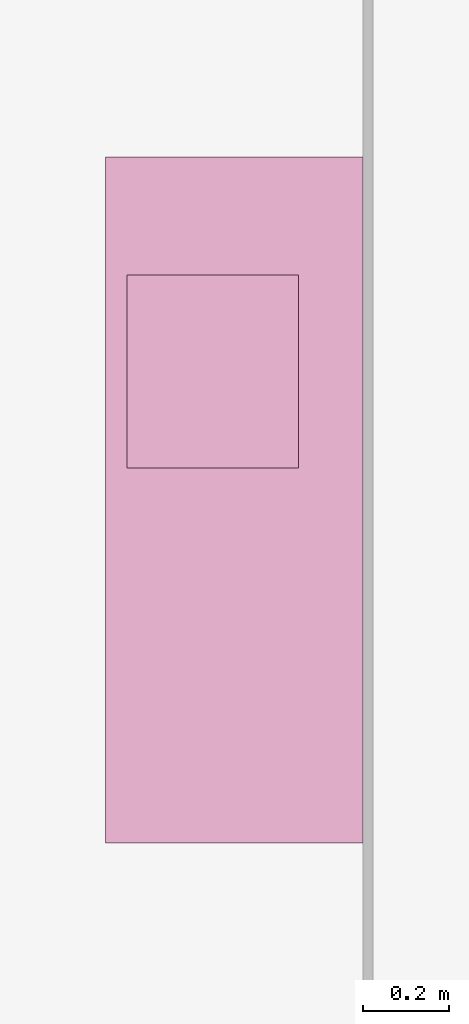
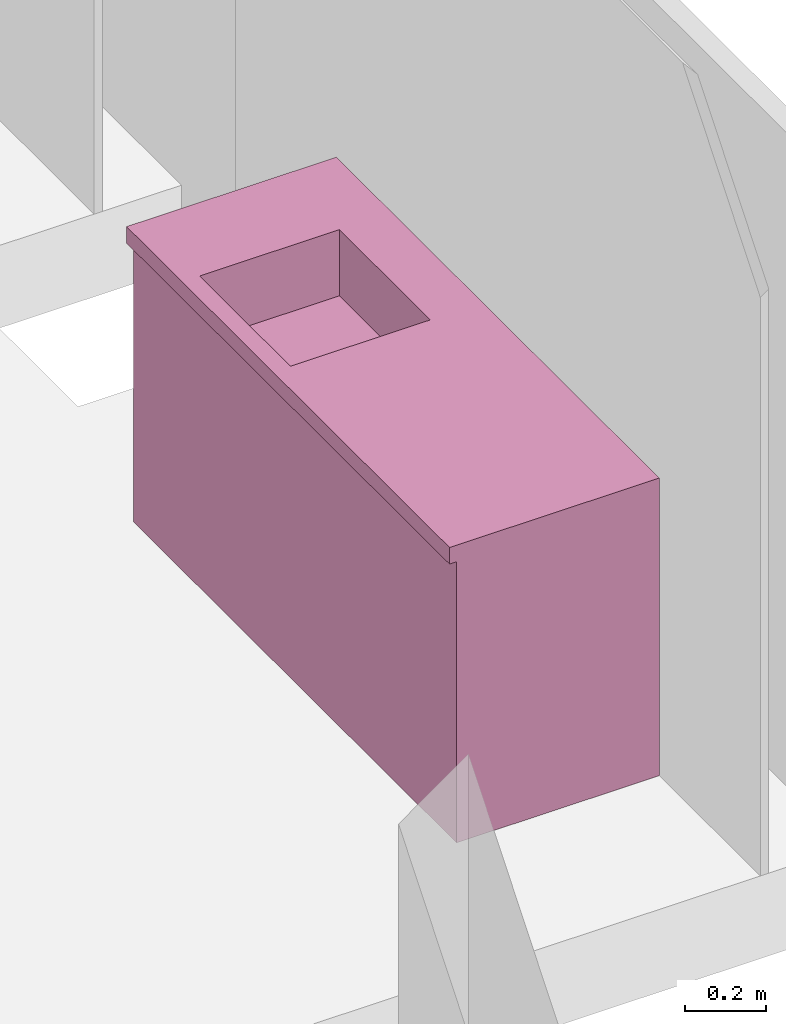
# One storey, part 2 of 2: 1 furniture element.
"""IFC4 building model written with IfcOpenShell, lengths in millimetres."""

from ifc_helpers import new_model, si_unit, frame, origin_with_axes, place, context, subcontext, project, spatial, triangles, material, type_object, element, save


model = new_model("IFC4")

# Units and contexts
model_context = context("Model", 3, world=origin_with_axes())
body_context = subcontext(model_context, "Body", "Model", "MODEL_VIEW")
ifc_project = project(units=[si_unit("LENGTHUNIT", "METRE", prefix="MILLI"), si_unit("AREAUNIT", "SQUARE_METRE"), si_unit("VOLUMEUNIT", "CUBIC_METRE")], contexts=[model_context])

# Sites, building, storey, space
site_1_placement = place(None, origin_with_axes())
site_1 = spatial("IfcSite", under=ifc_project, at=site_1_placement, Name="environment - site", CompositionType="COMPLEX")
site_2_placement = place(site_1_placement, frame((5800.000000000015, 5800.000000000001, -1300.0000000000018), z_axis=(0.0, 0.0, 1.0), x_axis=(1.0, 0.0, 0.0)))
site_2 = spatial("IfcSite", under=site_1, at=site_2_placement, Name="house - site", CompositionType="PARTIAL")
building_placement = place(site_2_placement, frame((-2799.999999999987, -2799.9999999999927, 1300.0), z_axis=(0.0, 0.0, 1.0), x_axis=(1.0, 0.0, 0.0)))
building = spatial("IfcBuilding", under=site_2, at=building_placement, Name="Single-family house", CompositionType="ELEMENT")
storey_placement = place(building_placement, origin_with_axes())
storey = spatial("IfcBuildingStorey", under=building, at=storey_placement, Name="00 groundfloor", CompositionType="ELEMENT", Elevation=-1.8047785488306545e-12)
space_placement = place(None, frame((3200.000000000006, 4999.99999999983, 1.9491608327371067e-11), z_axis=(0.0, 0.0, 1.0), x_axis=(1.0, 0.0, 0.0)))
space = spatial("IfcSpace", under=storey, at=space_placement, Name="living room", CompositionType="ELEMENT")

# Furniture
ifc_material = material(Name="wood_mdf_plate")
furniture_type = type_object("IfcFurnitureType", Name="house - kitchen", AssemblyPlace="NOTDEFINED", PredefinedType="USERDEFINED")
furniture_placement = place(space_placement, frame((4950.000000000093, 2100.000000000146, 2.8695978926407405e-11), z_axis=(8.38164711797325e-31, 5.661703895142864e-16, 1.0), x_axis=(-1.5543122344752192e-15, -1.0, 5.661703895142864e-16)))
element("IfcFurniture", 1, at=furniture_placement, inside=space, type_object=furniture_type, material=ifc_material, Name="kitchen", ObjectType="kitchen", context=body_context, shape_type="Tessellation", body=[
    triangles([(724.9999999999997, -150.00000000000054, 900.0000000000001), (275.00000000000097, -150.00000000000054, 700.0000000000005), (724.9999999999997, -150.00000000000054, 700.0000000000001), (275.00000000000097, -150.00000000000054, 900.0000000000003), (0.0, 0.0, 900.0), (1600.0000000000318, 3.7902481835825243e-44, 1.59274862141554e-13), (0.0, 0.0, 0.0), (1600.0000000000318, 3.7902481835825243e-44, 899.9999999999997), (724.9999999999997, -549.9999999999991, 700.0), (275.00000000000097, -150.00000000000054, 700.0000000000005), (275.00000000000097, -549.9999999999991, 700.0000000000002), (724.9999999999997, -150.00000000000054, 700.0000000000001), (0.0, 0.0, 900.0), (-1.4213430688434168e-44, -599.9999999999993, 850.0000000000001), (-1.4213430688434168e-44, -599.9999999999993, 900.0000000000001), (-1.3739649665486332e-44, -579.9999999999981, 850.0000000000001), (-1.3739649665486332e-44, -579.9999999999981, 1.760673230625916e-13), (0.0, 0.0, 0.0), (1600.0000000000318, -599.9999999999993, 899.9999999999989), (-1.4213430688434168e-44, -599.9999999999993, 850.0000000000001), (1600.0000000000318, -599.9999999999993, 849.9999999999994), (-1.4213430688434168e-44, -599.9999999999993, 900.0000000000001), (1600.0000000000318, 3.7902481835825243e-44, 1.59274862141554e-13), (-1.3739649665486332e-44, -579.9999999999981, 1.760673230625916e-13), (0.0, 0.0, 0.0), (1600.0000000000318, -579.9999999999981, -6.01462045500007e-13), (724.9999999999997, -150.00000000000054, 900.0000000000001), (724.9999999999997, -549.9999999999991, 700.0), (724.9999999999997, -549.9999999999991, 900.0), (724.9999999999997, -150.00000000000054, 700.0000000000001), (275.00000000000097, -150.00000000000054, 700.0000000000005), (275.00000000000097, -549.9999999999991, 900.0000000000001), (275.00000000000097, -549.9999999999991, 700.0000000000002), (275.00000000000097, -150.00000000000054, 900.0000000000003), (-1.4213430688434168e-44, -599.9999999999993, 900.0000000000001), (275.00000000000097, -549.9999999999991, 900.0000000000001), (0.0, 0.0, 900.0), (1600.0000000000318, -599.9999999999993, 899.9999999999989), (724.9999999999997, -549.9999999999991, 900.0), (724.9999999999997, -150.00000000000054, 900.0000000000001), (275.00000000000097, -150.00000000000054, 900.0000000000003), (1600.0000000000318, 3.7902481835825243e-44, 899.9999999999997), (1600.0000000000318, -580.0000000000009, 849.9999999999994), (-1.3739649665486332e-44, -579.9999999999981, 1.760673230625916e-13), (1600.0000000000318, -579.9999999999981, -6.01462045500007e-13), (-1.3739649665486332e-44, -579.9999999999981, 850.0000000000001), (275.00000000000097, -549.9999999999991, 700.0000000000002), (724.9999999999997, -549.9999999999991, 900.0), (724.9999999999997, -549.9999999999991, 700.0), (275.00000000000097, -549.9999999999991, 900.0000000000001), (1600.0000000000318, -580.0000000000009, 849.9999999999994), (1600.0000000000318, -599.9999999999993, 899.9999999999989), (1600.0000000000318, -599.9999999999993, 849.9999999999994), (1600.0000000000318, 3.7902481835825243e-44, 899.9999999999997), (1600.0000000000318, -579.9999999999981, -6.01462045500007e-13), (1600.0000000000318, 3.7902481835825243e-44, 1.59274862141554e-13), (1600.0000000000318, -580.0000000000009, 849.9999999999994), (-1.4213430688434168e-44, -599.9999999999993, 850.0000000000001), (-1.3739649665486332e-44, -579.9999999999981, 850.0000000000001), (1600.0000000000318, -599.9999999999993, 849.9999999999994)], [[1, 2, 3], [2, 1, 4], [5, 6, 7], [6, 5, 8], [9, 10, 11], [10, 9, 12], [13, 14, 15], [14, 13, 16], [16, 13, 17], [17, 13, 18], [19, 20, 21], [20, 19, 22], [23, 24, 25], [24, 23, 26], [27, 28, 29], [28, 27, 30], [31, 32, 33], [32, 31, 34], [35, 36, 37], [36, 35, 38], [36, 38, 39], [39, 38, 40], [37, 41, 42], [41, 37, 36], [42, 41, 40], [42, 40, 38], [43, 44, 45], [44, 43, 46], [47, 48, 49], [48, 47, 50], [51, 52, 53], [52, 51, 54], [54, 51, 55], [54, 55, 56], [57, 58, 59], [58, 57, 60]]),
])

save(model, "model.ifc")
